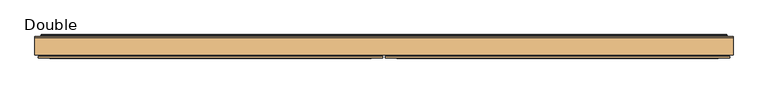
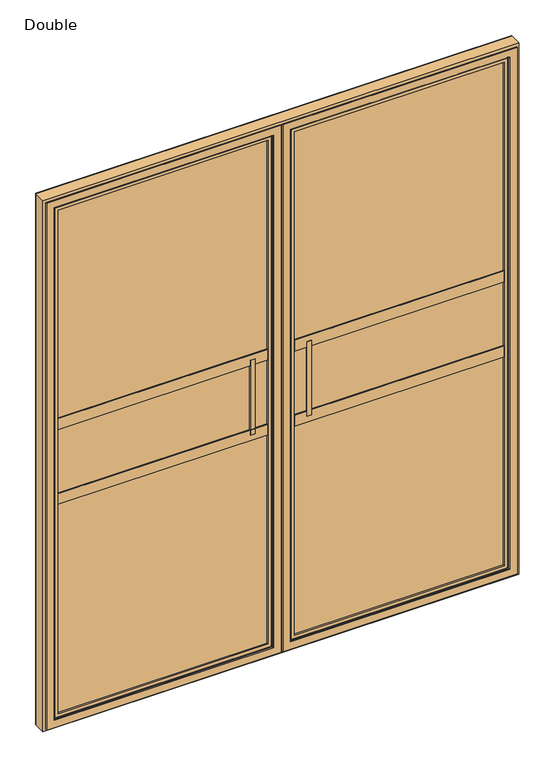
"""IFC4 building model written with IfcOpenShell, lengths in millimetres: door geometry, SMARTS_HeritageDoor : Double."""

import ifcopenshell
import ifcopenshell.guid

model = None  # the IFC model being written
_history = None  # IfcOwnerHistory: only IFC2X3 demands one
_inside = {}  # id of a spatial element -> (the spatial element, [elements in it])
_under = {}  # id of a project, library or spatial element -> (it, [spatial elements below it])
_declared = {}  # id of a project -> (the project, [libraries it declares])
_typed = {}  # id of a type object -> (the type object, [elements of that type])
_made_of = {}  # id of a material, layer set ... -> (it, [elements and type objects made of it])


def new_model(schema):
    """Start an empty IFC model of exactly this schema.

    Asked for "IFC4X3", IfcOpenShell would pick the latest addendum, in which some entities
    have other attributes; the version numbers below select the first issue.
    IFC2X3 requires an IfcOwnerHistory on every rooted entity: one is made here for all.
    """
    global model, _history
    if schema == "IFC4X3":
        model = ifcopenshell.file(schema_version=(4, 3, 0, 0))
    else:
        model = ifcopenshell.file(schema=schema)
    _inside.clear()
    _under.clear()
    _declared.clear()
    _typed.clear()
    _made_of.clear()
    _history = None
    if model.schema == "IFC2X3":
        org = make("IfcOrganization", Name="unknown")
        user = make(
            "IfcPersonAndOrganization",
            ThePerson=make("IfcPerson", FamilyName="unknown"),
            TheOrganization=org,
        )
        app = make(
            "IfcApplication",
            ApplicationDeveloper=org,
            Version="unknown",
            ApplicationFullName="unknown",
            ApplicationIdentifier="unknown",
        )
        _history = make(
            "IfcOwnerHistory",
            OwningUser=user,
            OwningApplication=app,
            ChangeAction="ADDED",
            CreationDate=0,
        )
    return model


def make(cls, **values):
    """One entity of the class cls with the attributes given. An attribute that is None is left unset."""
    return model.create_entity(
        cls, **{name: value for name, value in values.items() if value is not None}
    )


def rooted(cls, **values):
    """An entity with a GlobalId (a new one), such as an element, a storey or a relation."""
    return make(cls, GlobalId=ifcopenshell.guid.new(), OwnerHistory=_history, **values)


def si_unit(unit_type, name, prefix=None):
    """IfcSIUnit, for example si_unit("LENGTHUNIT", "METRE", prefix="MILLI")."""
    return make("IfcSIUnit", UnitType=unit_type, Prefix=prefix, Name=name)


def assignment(units):
    """IfcUnitAssignment: the units of a project."""
    return None if units is None else make("IfcUnitAssignment", Units=units)


def point(xyz):
    """IfcCartesianPoint."""
    return None if xyz is None else make("IfcCartesianPoint", Coordinates=xyz)


def direction(xyz):
    """IfcDirection."""
    return None if xyz is None else make("IfcDirection", DirectionRatios=xyz)


def frame(location, z_axis=None, x_axis=None):
    """IfcAxis2Placement3D, a coordinate frame: its origin and axes. An axis left out is left unset."""
    return make(
        "IfcAxis2Placement3D",
        Location=point(location),
        Axis=direction(z_axis),
        RefDirection=direction(x_axis),
    )


def origin():
    """The frame at (0, 0, 0) with its axes left unset."""
    return frame((0.0, 0.0, 0.0))


def place(relative_to, where):
    """IfcLocalPlacement: puts the frame where relative to a parent placement (None: the world)."""
    return make(
        "IfcLocalPlacement", PlacementRelTo=relative_to, RelativePlacement=where
    )


def context(
    kind, dimensions, precision=None, world=None, true_north=None, identifier=None
):
    """IfcGeometricRepresentationContext, for example the 3D "Model" context."""
    return make(
        "IfcGeometricRepresentationContext",
        ContextIdentifier=identifier,
        ContextType=kind,
        CoordinateSpaceDimension=dimensions,
        Precision=precision,
        WorldCoordinateSystem=world,
        TrueNorth=true_north,
    )


def project(units=None, contexts=None):
    """IfcProject with its units and contexts."""
    return rooted(
        "IfcProject",
        Name="project",
        RepresentationContexts=contexts,
        UnitsInContext=assignment(units),
    )


def spatial(cls, under=None, at=None, **own):
    """A site, building, storey or space (cls), placed at a placement, below another one or the project."""
    s = rooted(cls, ObjectPlacement=at, **own)
    if under is not None:
        _under.setdefault(under.id(), (under, []))[1].append(s)
    return s


def polyline(points):
    """IfcPolyline through the points."""
    return make("IfcPolyline", Points=[point(p) for p in points])


def ellipse_curve(where, semi_axis1, semi_axis2):
    """IfcEllipse in the frame where."""
    return make(
        "IfcEllipse", Position=where, SemiAxis1=semi_axis1, SemiAxis2=semi_axis2
    )


def outline(outer, holes=None, kind="AREA"):
    """IfcArbitraryClosedProfileDef: a profile drawn as a closed curve; with holes, ...WithVoids."""
    if holes is None:
        return make("IfcArbitraryClosedProfileDef", ProfileType=kind, OuterCurve=outer)
    return make(
        "IfcArbitraryProfileDefWithVoids",
        ProfileType=kind,
        OuterCurve=outer,
        InnerCurves=holes,
    )


def extrude(swept, where, along, depth):
    """IfcExtrudedAreaSolid: the profile swept, set in the frame where, extruded along a direction by depth."""
    return make(
        "IfcExtrudedAreaSolid",
        SweptArea=swept,
        Position=where,
        ExtrudedDirection=direction(along),
        Depth=depth,
    )


def shape(context_of_items, identifier, shape_type, items):
    """IfcShapeRepresentation: the items that make up one representation, for example the "Body"."""
    return make(
        "IfcShapeRepresentation",
        ContextOfItems=context_of_items,
        RepresentationIdentifier=identifier,
        RepresentationType=shape_type,
        Items=items,
    )


def source(mapping_origin, context_of_items, identifier, shape_type, items):
    """IfcRepresentationMap: a shape defined once, which mapped items show again and again."""
    return make(
        "IfcRepresentationMap",
        MappingOrigin=mapping_origin,
        MappedRepresentation=shape(context_of_items, identifier, shape_type, items),
    )


def transform(
    local_origin,
    x_axis=None,
    y_axis=None,
    z_axis=None,
    scale=None,
    scale2=None,
    scale3=None,
    uniform=True,
):
    """IfcCartesianTransformationOperator3D, or its non-uniform kind. x_axis, y_axis, z_axis: its Axis1, 2, 3."""
    if uniform:
        return make(
            "IfcCartesianTransformationOperator3D",
            Axis1=direction(x_axis),
            Axis2=direction(y_axis),
            LocalOrigin=point(local_origin),
            Scale=scale,
            Axis3=direction(z_axis),
        )
    return make(
        "IfcCartesianTransformationOperator3DnonUniform",
        Axis1=direction(x_axis),
        Axis2=direction(y_axis),
        LocalOrigin=point(local_origin),
        Scale=scale,
        Axis3=direction(z_axis),
        Scale2=scale2,
        Scale3=scale3,
    )


def mapped(mapping_source, mapping_target):
    """IfcMappedItem: shows the shape of a source again, moved by a transform."""
    return make(
        "IfcMappedItem", MappingSource=mapping_source, MappingTarget=mapping_target
    )


def made_of(thing, what):
    """Note that an element or type object is made of a material, layer set ...; save() writes the relation."""
    if what is not None:
        _made_of.setdefault(what.id(), (what, []))[1].append(thing)
    return thing


def element(
    cls,
    number,
    at=None,
    inside=None,
    cuts=None,
    type_object=None,
    material=None,
    context=None,
    identifier="Body",
    shape_type=None,
    held_by="IfcProductDefinitionShape",
    body=None,
    shapes=None,
    **own,
):
    """One element of the class cls, such as IfcWall. Its Tag is "e" and its number.

    at: its placement. inside: the storey or other place that contains it. cuts: it is an
    opening in that element (IfcRelVoidsElement). A single representation is given by context,
    identifier, shape_type and body (its items); several are given by shapes. held_by: the class
    of the entity that holds the representations. save() writes the other relations.
    """
    e = rooted(cls, Tag="e%d" % number, ObjectPlacement=at, **own)
    if body is not None:
        shapes = [shape(context, identifier, shape_type, body)]
    if shapes is not None:
        e.Representation = make(held_by, Representations=shapes)
    if inside is not None:
        _inside.setdefault(inside.id(), (inside, []))[1].append(e)
    if cuts is not None:
        rooted(
            "IfcRelVoidsElement", RelatingBuildingElement=cuts, RelatedOpeningElement=e
        )
    if type_object is not None:
        _typed.setdefault(type_object.id(), (type_object, []))[1].append(e)
    return made_of(e, material)


def aggregate(whole, parts):
    """IfcRelAggregates: a whole, such as a stair, and the parts it consists of."""
    return rooted("IfcRelAggregates", RelatingObject=whole, RelatedObjects=parts)


def save(model, path):
    """Write the relations noted so far, then the file.

    IfcRelAggregates (storeys below a building ...), IfcRelContainedInSpatialStructure (elements
    in a storey), IfcRelDefinesByType, IfcRelAssociatesMaterial and IfcRelDeclares: one each for
    every whole, place, type object, material and project.
    """
    for whole, parts in _under.values():
        aggregate(whole, parts)
    for where, things in _inside.values():
        rooted(
            "IfcRelContainedInSpatialStructure",
            RelatedElements=things,
            RelatingStructure=where,
        )
    for kind, things in _typed.values():
        rooted("IfcRelDefinesByType", RelatedObjects=things, RelatingType=kind)
    for what, things in _made_of.values():
        rooted("IfcRelAssociatesMaterial", RelatedObjects=things, RelatingMaterial=what)
    for by, libraries in _declared.values():
        rooted("IfcRelDeclares", RelatingContext=by, RelatedDefinitions=libraries)
    model.write(path)


def plane_surface(at):
    """IfcPlane: the flat surface through the origin of the frame at, square to its z axis."""
    return make("IfcPlane", Position=at)


def cylinder_surface(at, radius):
    """IfcCylindricalSurface: all points at the distance radius from the z axis of the frame at."""
    return make("IfcCylindricalSurface", Position=at, Radius=radius)


def revolved_surface(curve, axis_point, axis_direction):
    """IfcSurfaceOfRevolution: the curve turned about the line through axis_point along axis_direction."""
    return make(
        "IfcSurfaceOfRevolution",
        SweptCurve=make("IfcArbitraryOpenProfileDef", ProfileType="CURVE", Curve=curve),
        AxisPosition=make("IfcAxis1Placement", Location=point(axis_point), Axis=direction(axis_direction)),
    )


def advanced_brep(points, edges, surfaces, faces):
    """IfcAdvancedBrep: a solid bounded by faces that lie on surfaces and meet in shared edges.

    An edge is (start, end): straight between two places in points (the first is 0);
    or (start, end, curve); or (start, end, curve, False) where it runs against its curve.
    A face is (place in surfaces, loops), or (place, loops, False) where it looks against
    its surface's normal. A loop lists edges by number (the first is 1), with a minus sign
    where the edge is run from its end to its start. The first loop is the outer one.
    """
    corners = [point(p) for p in points]
    vertices = [make("IfcVertexPoint", VertexGeometry=c) for c in corners]
    made = []
    for start, end, *more in edges:
        made.append(
            make(
                "IfcEdgeCurve",
                EdgeStart=vertices[start],
                EdgeEnd=vertices[end],
                EdgeGeometry=more[0] if more else make("IfcPolyline", Points=[corners[start], corners[end]]),
                SameSense=more[1] if len(more) > 1 else True,
            )
        )
    hull = []
    for where, loops, *sense in faces:
        bounds = []
        for j, loop in enumerate(loops):
            ring = [make("IfcOrientedEdge", EdgeElement=made[abs(k) - 1], Orientation=k > 0) for k in loop]
            bounds.append(
                make(
                    "IfcFaceOuterBound" if j == 0 else "IfcFaceBound",
                    Bound=make("IfcEdgeLoop", EdgeList=ring),
                    Orientation=True,
                )
            )
        hull.append(make("IfcAdvancedFace", Bounds=bounds, FaceSurface=surfaces[where], SameSense=sense[0] if sense else True))
    return make("IfcAdvancedBrep", Outer=make("IfcClosedShell", CfsFaces=hull))


def double_5f8e8586(model_context):
    return source(origin(), model_context, "Body", "SolidModel", [
        extrude(outline(polyline([(-38.0, -66.0), (-846.5, -66.0), (-846.5, -62.0), (-38.0, -62.0), (-38.0, -66.0)])), frame((0.0, 0.0, 853.5), z_axis=(0.0, 0.0, 1.0), x_axis=(1.0, 0.0, 0.0)), (0.0, 0.0, 1.0), 2013.0),
        extrude(outline(polyline([(-38.0, -46.0), (-846.5, -46.0), (-846.5, -42.0), (-38.0, -42.0), (-38.0, -46.0)])), frame((0.0, 0.0, 853.5), z_axis=(0.0, 0.0, 1.0), x_axis=(1.0, 0.0, 0.0)), (0.0, 0.0, 1.0), 2013.0),
        extrude(outline(polyline([(2866.5, -846.5), (853.5, -846.5), (853.5, -38.0), (2866.5, -38.0), (2866.5, -846.5)]), holes=[polyline([(2856.5, -48.0), (863.5, -48.0), (863.5, -836.5), (2856.5, -836.5), (2856.5, -48.0)])]), frame((0.0, -62.0, 0.0), z_axis=(0.0, 1.0, 0.0), x_axis=(0.0, 0.0, 1.0)), (0.0, 0.0, 1.0), 16.0),
        extrude(outline(polyline([(-99.7380255, -38.3), (-114.7380255, -38.3), (-114.7380255, -27.0), (-99.7380255, -27.0), (-99.7380255, -38.3)])), frame((0.0, 0.0, 1712.0), z_axis=(0.0, 0.0, 1.0), x_axis=(1.0, 0.0, 0.0)), (0.0, 0.0, 1.0), 296.0),
        extrude(outline(polyline([(-34.5, -27.0), (-34.5, -57.9), (-99.7380255, -57.9), (-99.7380255, -27.0), (-34.5, -27.0)])), frame((0.0, 0.0, 1712.0), z_axis=(0.0, 0.0, 1.0), x_axis=(1.0, 0.0, 0.0)), (0.0, 0.0, 1.0), 296.0),
        extrude(outline(polyline([(-114.7380255, -69.6), (-99.7380255, -69.6), (-99.7380255, -57.9), (-34.3, -57.9), (-34.3, -67.9), (-98.0380255, -67.9), (-98.0380255, -73.8), (-114.7380255, -73.8), (-114.7380255, -69.6)])), frame((0.0, 0.0, 1712.0), z_axis=(0.0, 0.0, 1.0), x_axis=(1.0, 0.0, 0.0)), (0.0, 0.0, 1.0), 296.0),
        extrude(outline(polyline([(2870.0052956, -850.0052956), (849.9947044, -850.0052956), (849.9947044, -34.4947044), (2870.0052956, -34.4947044), (2870.0052956, -850.0052956)]), holes=[polyline([(2855.0, -49.5), (865.0, -49.5), (865.0, -835.0), (2855.0, -835.0), (2855.0, -49.5)])]), frame((0.0, -39.3, 0.0), z_axis=(0.0, 1.0, 0.0), x_axis=(0.0, 0.0, 1.0)), (0.0, 0.0, 1.0), 11.3),
        extrude(outline(polyline([(2885.6451958, -18.8548042), (2885.6451958, -865.6451958), (834.3548042, -865.6451958), (834.3548042, -18.8548042), (2885.6451958, -18.8548042)]), holes=[polyline([(850.0, -34.5), (850.0, -850.0), (2870.0, -850.0), (2870.0, -34.5), (850.0, -34.5)])]), frame((0.0, -69.6, 0.0), z_axis=(0.0, 1.0, 0.0), x_axis=(0.0, 0.0, 1.0)), (0.0, 0.0, 1.0), 41.6),
        advanced_brep(
        [(-49.5, -74.8, 2855.0), (-49.5, -69.6, 2855.0), (-49.5, -69.6, 865.0), (-49.5, -74.8, 865.0), (-835.0, -69.6, 865.0), (-835.0, -74.8, 865.0), (-835.0, -69.6, 2855.0), (-835.0, -74.8, 2855.0), (-3.3, -76.0, 2901.2), (-3.3, -80.0, 2901.2), (-3.3, -80.0, 818.8), (-3.3, -76.0, 818.8), (-881.2, -80.0, 818.8), (-881.2, -76.0, 818.8), (-881.2, -80.0, 2901.2), (-881.2, -76.0, 2901.2), (-18.3532343, -76.0, 2886.1467657), (-866.1467657, -76.0, 2886.1467657), (-866.1467657, -76.0, 833.8532343), (-18.3532343, -76.0, 833.8532343), (-32.3, -80.0, 847.8), (-852.2, -80.0, 847.8), (-852.2, -80.0, 2872.2), (-32.3, -80.0, 2872.2), (-18.3532343, -69.6, 2886.1467657), (-18.3532343, -69.6, 833.8532343), (-866.1467657, -69.6, 833.8532343), (-866.1467657, -69.6, 2886.1467657), (-34.3, -78.0, 2870.2), (-34.3, -76.8, 2870.2), (-34.3, -76.8, 849.8), (-34.3, -78.0, 849.8), (-36.3, -74.8, 2868.2), (-36.3, -74.8, 851.8), (-850.2, -76.8, 849.8), (-850.2, -78.0, 849.8), (-848.2, -74.8, 851.8), (-850.2, -76.8, 2870.2), (-850.2, -78.0, 2870.2), (-848.2, -74.8, 2868.2)],
        [
            (0, 1),
            (1, 2),
            (2, 3),
            (3, 0),
            (2, 4),
            (4, 5),
            (5, 3),
            (4, 6),
            (6, 7),
            (7, 5),
            (6, 1),
            (0, 7),
            (8, 9),
            (9, 10),
            (10, 11),
            (11, 8),
            (10, 12),
            (12, 13),
            (13, 11),
            (12, 14),
            (14, 15),
            (15, 13),
            (15, 8),
            (16, 17),
            (17, 18),
            (18, 19),
            (19, 16),
            (14, 9),
            (20, 21),
            (21, 22),
            (22, 23),
            (23, 20),
            (24, 16),
            (19, 25),
            (25, 24),
            (18, 26),
            (26, 25),
            (17, 27),
            (27, 26),
            (27, 24),
            (28, 29),
            (29, 30),
            (30, 31),
            (31, 28),
            (29, 32, ellipse_curve(frame((-36.3, -76.8, 2868.2), z_axis=(-0.7071067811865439, 0.0, 0.7071067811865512), x_axis=(-0.7071067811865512, 0.0, -0.7071067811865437)), 2.8284271, 2.0)),
            (32, 33),
            (33, 30, ellipse_curve(frame((-36.3, -76.8, 851.8), z_axis=(-0.7071067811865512, 0.0, -0.7071067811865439), x_axis=(0.707106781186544, 0.0, -0.707106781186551)), 2.8284271, 2.0)),
            (30, 34),
            (34, 35),
            (35, 31),
            (33, 36),
            (36, 34, ellipse_curve(frame((-848.2, -76.8, 851.8), z_axis=(-0.7071067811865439, 0.0, 0.7071067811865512), x_axis=(-0.707106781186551, 0.0, -0.707106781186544)), 2.8284271, 2.0)),
            (34, 37),
            (37, 38),
            (38, 35),
            (36, 39),
            (39, 37, ellipse_curve(frame((-848.2, -76.8, 2868.2), z_axis=(0.7071067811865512, 0.0, 0.7071067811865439), x_axis=(-0.707106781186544, 0.0, 0.707106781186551)), 2.8284271, 2.0)),
            (32, 39),
            (37, 29),
            (28, 38),
            (23, 28, ellipse_curve(frame((-32.3, -78.0, 2872.2), z_axis=(0.7071067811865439, 0.0, -0.7071067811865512), x_axis=(0.7071067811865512, 0.0, 0.7071067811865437)), 2.8284271, 2.0)),
            (31, 20, ellipse_curve(frame((-32.3, -78.0, 847.8), z_axis=(0.7071067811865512, 0.0, 0.7071067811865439), x_axis=(-0.707106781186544, 0.0, 0.707106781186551)), 2.8284271, 2.0)),
            (35, 21, ellipse_curve(frame((-852.2, -78.0, 847.8), z_axis=(0.7071067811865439, 0.0, -0.7071067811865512), x_axis=(0.707106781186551, 0.0, 0.707106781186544)), 2.8284271, 2.0)),
            (38, 22, ellipse_curve(frame((-852.2, -78.0, 2872.2), z_axis=(-0.7071067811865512, 0.0, -0.7071067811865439), x_axis=(0.707106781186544, 0.0, -0.707106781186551)), 2.8284271, 2.0)),
        ],
        [
            plane_surface(frame((-49.5, -69.6, 2855.0), z_axis=(-1.0, 0.0, 0.0), x_axis=(0.0, 0.0, -1.0))),
            plane_surface(frame((-49.5, -69.6, 865.0), z_axis=(0.0, 0.0, 1.0), x_axis=(-1.0, 0.0, 0.0))),
            plane_surface(frame((-835.0, -69.6, 865.0), z_axis=(1.0, 0.0, 0.0), x_axis=(0.0, 0.0, 1.0))),
            plane_surface(frame((-835.0, -69.6, 2855.0), z_axis=(0.0, 0.0, -1.0), x_axis=(1.0, 0.0, 0.0))),
            plane_surface(frame((-3.3, -80.0, 2901.2), z_axis=(1.0, 0.0, 0.0), x_axis=(0.0, 0.0, -1.0))),
            plane_surface(frame((-3.3, -80.0, 818.8), z_axis=(0.0, 0.0, -1.0), x_axis=(-1.0, 0.0, 0.0))),
            plane_surface(frame((-881.2, -80.0, 818.8), z_axis=(-1.0, 0.0, 0.0), x_axis=(0.0, 0.0, 1.0))),
            plane_surface(frame((-881.2, -76.0, 2901.2), z_axis=(0.0, 1.0, 0.0), x_axis=(1.0, 0.0, 0.0))),
            plane_surface(frame((-881.2, -80.0, 2901.2), z_axis=(0.0, 0.0, 1.0), x_axis=(1.0, 0.0, 0.0))),
            plane_surface(frame((-852.2, -80.0, 2872.2), z_axis=(0.0, -1.0, 0.0), x_axis=(1.0, 0.0, 0.0))),
            plane_surface(frame((-18.3532343, -76.0, 2886.1467657), z_axis=(1.0, 0.0, 0.0), x_axis=(0.0, 0.0, -1.0))),
            plane_surface(frame((-18.3532343, -76.0, 833.8532343), z_axis=(0.0, 0.0, -1.0), x_axis=(-1.0, 0.0, 0.0))),
            plane_surface(frame((-866.1467657, -76.0, 833.8532343), z_axis=(-1.0, 0.0, 0.0), x_axis=(0.0, 0.0, 1.0))),
            plane_surface(frame((-866.1467657, -69.6, 2886.1467657), z_axis=(0.0, 1.0, 0.0), x_axis=(1.0, 0.0, 0.0))),
            plane_surface(frame((-866.1467657, -76.0, 2886.1467657), z_axis=(0.0, 0.0, 1.0), x_axis=(1.0, 0.0, 0.0))),
            plane_surface(frame((-34.3, -76.8, 2870.2), z_axis=(-1.0, 0.0, 0.0), x_axis=(0.0, 0.0, -1.0))),
            revolved_surface(polyline([(-34.3, -76.8, 849.8), (-34.3, -76.8, 2870.2)]), (-36.3, -76.8, 2880.0), (0.0, 0.0, -1.0)),
            plane_surface(frame((-34.3, -76.8, 849.8), z_axis=(0.0, 0.0, 1.0), x_axis=(-1.0, 0.0, 0.0))),
            revolved_surface(polyline([(-850.2, -76.8, 849.8), (-34.3, -76.8, 849.8)]), (-24.5, -76.8, 851.8), (-1.0, 0.0, 0.0)),
            plane_surface(frame((-850.2, -76.8, 849.8), z_axis=(1.0, 0.0, 0.0), x_axis=(0.0, 0.0, 1.0))),
            revolved_surface(polyline([(-850.2, -76.8, 2870.2), (-850.2, -76.8, 849.8)]), (-848.2, -76.8, 840.0), (0.0, 0.0, 1.0)),
            plane_surface(frame((-835.0, -74.8, 2855.0), z_axis=(0.0, -1.0, 0.0), x_axis=(1.0, 0.0, 0.0))),
            plane_surface(frame((-850.2, -76.8, 2870.2), z_axis=(0.0, 0.0, -1.0), x_axis=(1.0, 0.0, 0.0))),
            revolved_surface(polyline([(-34.299999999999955, -76.8, 2870.2), (-850.2, -76.8, 2870.2)]), (-860.0, -76.8, 2868.2), (1.0, 0.0, 0.0)),
            cylinder_surface(frame((-32.3, -78.0, 2880.0), z_axis=(0.0, 0.0, 1.0), x_axis=(1.0, 0.0, 0.0)), 2.0),
            cylinder_surface(frame((-24.5, -78.0, 847.8), z_axis=(1.0, 0.0, 0.0), x_axis=(0.0, 0.0, -1.0)), 2.0),
            cylinder_surface(frame((-852.2, -78.0, 840.0), z_axis=(0.0, 0.0, -1.0), x_axis=(-1.0, 0.0, 0.0)), 2.0),
            cylinder_surface(frame((-860.0, -78.0, 2872.2), z_axis=(-1.0, 0.0, 0.0), x_axis=(0.0, 0.0, 1.0)), 2.0),
        ],
        [
            (0, [[1, 2, 3, 4]]),
            (1, [[-3, 5, 6, 7]]),
            (2, [[-6, 8, 9, 10]]),
            (3, [[-9, 11, -1, 12]]),
            (4, [[13, 14, 15, 16]]),
            (5, [[-15, 17, 18, 19]]),
            (6, [[-18, 20, 21, 22]]),
            (7, [[-19, -22, 23, -16], [24, 25, 26, 27]]),
            (8, [[-21, 28, -13, -23]]),
            (9, [[-28, -20, -17, -14], [29, 30, 31, 32]]),
            (10, [[33, -27, 34, 35]]),
            (11, [[-34, -26, 36, 37]]),
            (12, [[-36, -25, 38, 39]]),
            (13, [[-37, -39, 40, -35], [-11, -8, -5, -2]]),
            (14, [[-38, -24, -33, -40]]),
            (15, [[41, 42, 43, 44]]),
            (16, [[45, 46, 47, -42]]),
            (17, [[-43, 48, 49, 50]]),
            (18, [[-47, 51, 52, -48]]),
            (19, [[-49, 53, 54, 55]]),
            (20, [[-52, 56, 57, -53]]),
            (21, [[58, -56, -51, -46], [-7, -10, -12, -4]]),
            (22, [[-54, 59, -41, 60]]),
            (23, [[-57, -58, -45, -59]]),
            (24, [[61, -44, 62, -32]]),
            (25, [[-62, -50, 63, -29]]),
            (26, [[-63, -55, 64, -30]]),
            (27, [[-64, -60, -61, -31]]),
        ],
    ),
        extrude(outline(polyline([(-835.0, -38.4690746), (-835.0, -27.1690746), (-49.5, -27.1690746), (-49.5, -38.4690746), (-835.0, -38.4690746)])), frame((0.0, 0.0, 1986.75), z_axis=(0.0, 0.0, 1.0), x_axis=(1.0, 0.0, 0.0)), (0.0, 0.0, 1.0), 16.15),
        extrude(outline(polyline([(-835.0, -38.4690746), (-835.0, -27.1690746), (-49.5, -27.1690746), (-49.5, -38.4690746), (-835.0, -38.4690746)])), frame((0.0, 0.0, 2014.25), z_axis=(0.0, 0.0, 1.0), x_axis=(1.0, 0.0, 0.0)), (0.0, 0.0, 1.0), 15.0052956),
        extrude(outline(polyline([(-835.0, -53.5843537), (-835.0, -27.1690746), (-49.5, -27.1690746), (-49.5, -53.5843537), (-835.0, -53.5843537)])), frame((0.0, 0.0, 2001.75), z_axis=(0.0, 0.0, 1.0), x_axis=(1.0, 0.0, 0.0)), (0.0, 0.0, 1.0), 12.5),
        extrude(outline(polyline([(-69.9690746, 2029.2552956), (-69.9690746, 2014.25), (-53.5843537, 2014.25), (-53.5843537, 2001.75), (-69.9690746, 2001.75), (-69.9690746, 1986.75), (-73.9687074, 1986.75), (-73.9687074, 2029.2552956), (-69.9690746, 2029.2552956)])), frame((-835.0, 0.0, 0.0), z_axis=(1.0, 0.0, 0.0), x_axis=(0.0, 1.0, 0.0)), (0.0, 0.0, 1.0), 785.5),
        extrude(outline(polyline([(-835.0, -38.4690746), (-835.0, -27.1690746), (-49.5, -27.1690746), (-49.5, -38.4690746), (-835.0, -38.4690746)])), frame((0.0, 0.0, 1690.75), z_axis=(0.0, 0.0, 1.0), x_axis=(1.0, 0.0, 0.0)), (0.0, 0.0, 1.0), 16.15),
        extrude(outline(polyline([(-835.0, -38.4690746), (-835.0, -27.1690746), (-49.5, -27.1690746), (-49.5, -38.4690746), (-835.0, -38.4690746)])), frame((0.0, 0.0, 1718.25), z_axis=(0.0, 0.0, 1.0), x_axis=(1.0, 0.0, 0.0)), (0.0, 0.0, 1.0), 15.0052956),
        extrude(outline(polyline([(-835.0, -53.5843537), (-835.0, -27.1690746), (-49.5, -27.1690746), (-49.5, -53.5843537), (-835.0, -53.5843537)])), frame((0.0, 0.0, 1705.75), z_axis=(0.0, 0.0, 1.0), x_axis=(1.0, 0.0, 0.0)), (0.0, 0.0, 1.0), 12.5),
        extrude(outline(polyline([(-69.9690746, 1733.2552956), (-69.9690746, 1718.25), (-53.5843537, 1718.25), (-53.5843537, 1705.75), (-69.9690746, 1705.75), (-69.9690746, 1690.75), (-73.9687074, 1690.75), (-73.9687074, 1733.2552956), (-69.9690746, 1733.2552956)])), frame((-835.0, 0.0, 0.0), z_axis=(1.0, 0.0, 0.0), x_axis=(0.0, 1.0, 0.0)), (0.0, 0.0, 1.0), 785.5),
        extrude(outline(polyline([(38.0, -66.0), (38.0, -62.0), (846.5, -62.0), (846.5, -66.0), (38.0, -66.0)])), frame((0.0, 0.0, 853.5), z_axis=(0.0, 0.0, 1.0), x_axis=(1.0, 0.0, 0.0)), (0.0, 0.0, 1.0), 2013.0),
        extrude(outline(polyline([(38.0, -46.0), (38.0, -42.0), (846.5, -42.0), (846.5, -46.0), (38.0, -46.0)])), frame((0.0, 0.0, 853.5), z_axis=(0.0, 0.0, 1.0), x_axis=(1.0, 0.0, 0.0)), (0.0, 0.0, 1.0), 2013.0),
        extrude(outline(polyline([(2866.5, 846.5), (2866.5, 38.0), (853.5, 38.0), (853.5, 846.5), (2866.5, 846.5)]), holes=[polyline([(2856.5, 48.0), (2856.5, 836.5), (863.5, 836.5), (863.5, 48.0), (2856.5, 48.0)])]), frame((0.0, -62.0, 0.0), z_axis=(0.0, 1.0, 0.0), x_axis=(0.0, 0.0, 1.0)), (0.0, 0.0, 1.0), 16.0),
        extrude(outline(polyline([(99.7380255, -38.3), (99.7380255, -27.0), (114.7380255, -27.0), (114.7380255, -38.3), (99.7380255, -38.3)])), frame((0.0, 0.0, 1712.0), z_axis=(0.0, 0.0, 1.0), x_axis=(1.0, 0.0, 0.0)), (0.0, 0.0, 1.0), 296.0),
        extrude(outline(polyline([(34.5, -27.0), (99.7380255, -27.0), (99.7380255, -57.9), (34.5, -57.9), (34.5, -27.0)])), frame((0.0, 0.0, 1712.0), z_axis=(0.0, 0.0, 1.0), x_axis=(1.0, 0.0, 0.0)), (0.0, 0.0, 1.0), 296.0),
        extrude(outline(polyline([(114.7380255, -69.6), (114.7380255, -73.8), (98.0380255, -73.8), (98.0380255, -67.9), (34.3, -67.9), (34.3, -57.9), (99.7380255, -57.9), (99.7380255, -69.6), (114.7380255, -69.6)])), frame((0.0, 0.0, 1712.0), z_axis=(0.0, 0.0, 1.0), x_axis=(1.0, 0.0, 0.0)), (0.0, 0.0, 1.0), 296.0),
        extrude(outline(polyline([(2870.0052956, 850.0052956), (2870.0052956, 34.4947044), (849.9947044, 34.4947044), (849.9947044, 850.0052956), (2870.0052956, 850.0052956)]), holes=[polyline([(2855.0, 49.5), (2855.0, 835.0), (865.0, 835.0), (865.0, 49.5), (2855.0, 49.5)])]), frame((0.0, -39.3, 0.0), z_axis=(0.0, 1.0, 0.0), x_axis=(0.0, 0.0, 1.0)), (0.0, 0.0, 1.0), 11.3),
        extrude(outline(polyline([(2885.6451958, 18.8548042), (834.3548042, 18.8548042), (834.3548042, 865.6451958), (2885.6451958, 865.6451958), (2885.6451958, 18.8548042)]), holes=[polyline([(850.0, 34.5), (2870.0, 34.5), (2870.0, 850.0), (850.0, 850.0), (850.0, 34.5)])]), frame((0.0, -69.6, 0.0), z_axis=(0.0, 1.0, 0.0), x_axis=(0.0, 0.0, 1.0)), (0.0, 0.0, 1.0), 41.6),
        advanced_brep(
        [(49.5, -74.8, 2855.0), (49.5, -74.8, 865.0), (49.5, -69.6, 865.0), (49.5, -69.6, 2855.0), (835.0, -74.8, 865.0), (835.0, -69.6, 865.0), (835.0, -74.8, 2855.0), (835.0, -69.6, 2855.0), (3.3, -76.0, 2901.2), (3.3, -76.0, 818.8), (3.3, -80.0, 818.8), (3.3, -80.0, 2901.2), (881.2, -76.0, 818.8), (881.2, -80.0, 818.8), (881.2, -76.0, 2901.2), (881.2, -80.0, 2901.2), (18.3532343, -76.0, 2886.1467657), (18.3532343, -76.0, 833.8532343), (866.1467657, -76.0, 833.8532343), (866.1467657, -76.0, 2886.1467657), (32.3, -80.0, 847.8), (32.3, -80.0, 2872.2), (852.2, -80.0, 2872.2), (852.2, -80.0, 847.8), (18.3532343, -69.6, 2886.1467657), (18.3532343, -69.6, 833.8532343), (866.1467657, -69.6, 833.8532343), (866.1467657, -69.6, 2886.1467657), (34.3, -78.0, 2870.2), (34.3, -78.0, 849.8), (34.3, -76.8, 849.8), (34.3, -76.8, 2870.2), (36.3, -74.8, 851.8), (36.3, -74.8, 2868.2), (850.2, -78.0, 849.8), (850.2, -76.8, 849.8), (848.2, -74.8, 851.8), (850.2, -78.0, 2870.2), (850.2, -76.8, 2870.2), (848.2, -74.8, 2868.2)],
        [
            (0, 1),
            (1, 2),
            (2, 3),
            (3, 0),
            (1, 4),
            (4, 5),
            (5, 2),
            (4, 6),
            (6, 7),
            (7, 5),
            (6, 0),
            (3, 7),
            (8, 9),
            (9, 10),
            (10, 11),
            (11, 8),
            (9, 12),
            (12, 13),
            (13, 10),
            (12, 14),
            (14, 15),
            (15, 13),
            (8, 14),
            (16, 17),
            (17, 18),
            (18, 19),
            (19, 16),
            (11, 15),
            (20, 21),
            (21, 22),
            (22, 23),
            (23, 20),
            (24, 25),
            (25, 17),
            (16, 24),
            (25, 26),
            (26, 18),
            (26, 27),
            (27, 19),
            (24, 27),
            (28, 29),
            (29, 30),
            (30, 31),
            (31, 28),
            (30, 32, ellipse_curve(frame((36.3, -76.8, 851.8), z_axis=(0.7071067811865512, 0.0, -0.7071067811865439), x_axis=(-0.707106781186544, 0.0, -0.707106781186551)), 2.8284271, 2.0)),
            (32, 33),
            (33, 31, ellipse_curve(frame((36.3, -76.8, 2868.2), z_axis=(0.7071067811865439, 0.0, 0.7071067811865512), x_axis=(0.7071067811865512, 0.0, -0.7071067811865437)), 2.8284271, 2.0)),
            (29, 34),
            (34, 35),
            (35, 30),
            (35, 36, ellipse_curve(frame((848.2, -76.8, 851.8), z_axis=(0.7071067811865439, 0.0, 0.7071067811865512), x_axis=(0.707106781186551, 0.0, -0.707106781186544)), 2.8284271, 2.0)),
            (36, 32),
            (34, 37),
            (37, 38),
            (38, 35),
            (38, 39, ellipse_curve(frame((848.2, -76.8, 2868.2), z_axis=(-0.7071067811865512, 0.0, 0.7071067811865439), x_axis=(0.707106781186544, 0.0, 0.707106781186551)), 2.8284271, 2.0)),
            (39, 36),
            (39, 33),
            (37, 28),
            (31, 38),
            (20, 29, ellipse_curve(frame((32.3, -78.0, 847.8), z_axis=(-0.7071067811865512, 0.0, 0.7071067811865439), x_axis=(0.707106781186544, 0.0, 0.707106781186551)), 2.8284271, 2.0)),
            (28, 21, ellipse_curve(frame((32.3, -78.0, 2872.2), z_axis=(-0.7071067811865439, 0.0, -0.7071067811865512), x_axis=(-0.7071067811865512, 0.0, 0.7071067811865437)), 2.8284271, 2.0)),
            (23, 34, ellipse_curve(frame((852.2, -78.0, 847.8), z_axis=(-0.7071067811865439, 0.0, -0.7071067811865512), x_axis=(-0.707106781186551, 0.0, 0.707106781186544)), 2.8284271, 2.0)),
            (22, 37, ellipse_curve(frame((852.2, -78.0, 2872.2), z_axis=(0.7071067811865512, 0.0, -0.7071067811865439), x_axis=(-0.707106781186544, 0.0, -0.707106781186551)), 2.8284271, 2.0)),
        ],
        [
            plane_surface(frame((49.5, -69.6, 2855.0), z_axis=(1.0, 0.0, 0.0), x_axis=(0.0, 0.0, -1.0))),
            plane_surface(frame((49.5, -69.6, 865.0), z_axis=(0.0, 0.0, 1.0), x_axis=(1.0, 0.0, 0.0))),
            plane_surface(frame((835.0, -69.6, 865.0), z_axis=(-1.0, 0.0, 0.0), x_axis=(0.0, 0.0, 1.0))),
            plane_surface(frame((835.0, -69.6, 2855.0), z_axis=(0.0, 0.0, -1.0), x_axis=(-1.0, 0.0, 0.0))),
            plane_surface(frame((3.3, -80.0, 2901.2), z_axis=(-1.0, 0.0, 0.0), x_axis=(0.0, 0.0, -1.0))),
            plane_surface(frame((3.3, -80.0, 818.8), z_axis=(0.0, 0.0, -1.0), x_axis=(1.0, 0.0, 0.0))),
            plane_surface(frame((881.2, -80.0, 818.8), z_axis=(1.0, 0.0, 0.0), x_axis=(0.0, 0.0, 1.0))),
            plane_surface(frame((881.2, -76.0, 2901.2), z_axis=(0.0, 1.0, 0.0), x_axis=(-1.0, 0.0, 0.0))),
            plane_surface(frame((881.2, -80.0, 2901.2), z_axis=(0.0, 0.0, 1.0), x_axis=(-1.0, 0.0, 0.0))),
            plane_surface(frame((852.2, -80.0, 2872.2), z_axis=(0.0, -1.0, 0.0), x_axis=(-1.0, 0.0, 0.0))),
            plane_surface(frame((18.3532343, -76.0, 2886.1467657), z_axis=(-1.0, 0.0, 0.0), x_axis=(0.0, 0.0, -1.0))),
            plane_surface(frame((18.3532343, -76.0, 833.8532343), z_axis=(0.0, 0.0, -1.0), x_axis=(1.0, 0.0, 0.0))),
            plane_surface(frame((866.1467657, -76.0, 833.8532343), z_axis=(1.0, 0.0, 0.0), x_axis=(0.0, 0.0, 1.0))),
            plane_surface(frame((866.1467657, -69.6, 2886.1467657), z_axis=(0.0, 1.0, 0.0), x_axis=(-1.0, 0.0, 0.0))),
            plane_surface(frame((866.1467657, -76.0, 2886.1467657), z_axis=(0.0, 0.0, 1.0), x_axis=(-1.0, 0.0, 0.0))),
            plane_surface(frame((34.3, -76.8, 2870.2), z_axis=(1.0, 0.0, 0.0), x_axis=(0.0, 0.0, -1.0))),
            revolved_surface(polyline([(34.3, -76.8, 849.8), (34.3, -76.8, 2870.2)]), (36.3, -76.8, 2880.0), (0.0, 0.0, -1.0)),
            plane_surface(frame((34.3, -76.8, 849.8), z_axis=(0.0, 0.0, 1.0), x_axis=(1.0, 0.0, 0.0))),
            revolved_surface(polyline([(850.2, -76.8, 849.8), (34.3, -76.8, 849.8)]), (24.5, -76.8, 851.8), (1.0, 0.0, 0.0)),
            plane_surface(frame((850.2, -76.8, 849.8), z_axis=(-1.0, 0.0, 0.0), x_axis=(0.0, 0.0, 1.0))),
            revolved_surface(polyline([(850.2, -76.8, 2870.2), (850.2, -76.8, 849.8)]), (848.2, -76.8, 840.0), (0.0, 0.0, 1.0)),
            plane_surface(frame((835.0, -74.8, 2855.0), z_axis=(0.0, -1.0, 0.0), x_axis=(-1.0, 0.0, 0.0))),
            plane_surface(frame((850.2, -76.8, 2870.2), z_axis=(0.0, 0.0, -1.0), x_axis=(-1.0, 0.0, 0.0))),
            revolved_surface(polyline([(34.299999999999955, -76.8, 2870.2), (850.2, -76.8, 2870.2)]), (860.0, -76.8, 2868.2), (-1.0, 0.0, 0.0)),
            cylinder_surface(frame((32.3, -78.0, 2880.0), z_axis=(0.0, 0.0, 1.0), x_axis=(-1.0, 0.0, 0.0)), 2.0),
            cylinder_surface(frame((24.5, -78.0, 847.8), z_axis=(-1.0, 0.0, 0.0), x_axis=(0.0, 0.0, -1.0)), 2.0),
            cylinder_surface(frame((852.2, -78.0, 840.0), z_axis=(0.0, 0.0, -1.0), x_axis=(1.0, 0.0, 0.0)), 2.0),
            cylinder_surface(frame((860.0, -78.0, 2872.2), z_axis=(1.0, 0.0, 0.0), x_axis=(0.0, 0.0, 1.0)), 2.0),
        ],
        [
            (0, [[1, 2, 3, 4]]),
            (1, [[5, 6, 7, -2]]),
            (2, [[8, 9, 10, -6]]),
            (3, [[11, -4, 12, -9]]),
            (4, [[13, 14, 15, 16]]),
            (5, [[17, 18, 19, -14]]),
            (6, [[20, 21, 22, -18]]),
            (7, [[-13, 23, -20, -17], [24, 25, 26, 27]]),
            (8, [[-23, -16, 28, -21]]),
            (9, [[-15, -19, -22, -28], [29, 30, 31, 32]]),
            (10, [[33, 34, -24, 35]]),
            (11, [[36, 37, -25, -34]]),
            (12, [[38, 39, -26, -37]]),
            (13, [[-33, 40, -38, -36], [-3, -7, -10, -12]]),
            (14, [[-40, -35, -27, -39]]),
            (15, [[41, 42, 43, 44]]),
            (16, [[-43, 45, 46, 47]]),
            (17, [[48, 49, 50, -42]]),
            (18, [[-50, 51, 52, -45]]),
            (19, [[53, 54, 55, -49]]),
            (20, [[-55, 56, 57, -51]]),
            (21, [[-46, -52, -57, 58], [-1, -11, -8, -5]]),
            (22, [[59, -44, 60, -54]]),
            (23, [[-60, -47, -58, -56]]),
            (24, [[-29, 61, -41, 62]]),
            (25, [[-32, 63, -48, -61]]),
            (26, [[-31, 64, -53, -63]]),
            (27, [[-30, -62, -59, -64]]),
        ],
    ),
        extrude(outline(polyline([(835.0, -38.4690746), (49.5, -38.4690746), (49.5, -27.1690746), (835.0, -27.1690746), (835.0, -38.4690746)])), frame((0.0, 0.0, 1986.75), z_axis=(0.0, 0.0, 1.0), x_axis=(1.0, 0.0, 0.0)), (0.0, 0.0, 1.0), 16.15),
        extrude(outline(polyline([(835.0, -38.4690746), (49.5, -38.4690746), (49.5, -27.1690746), (835.0, -27.1690746), (835.0, -38.4690746)])), frame((0.0, 0.0, 2014.25), z_axis=(0.0, 0.0, 1.0), x_axis=(1.0, 0.0, 0.0)), (0.0, 0.0, 1.0), 15.0052956),
        extrude(outline(polyline([(835.0, -53.5843537), (49.5, -53.5843537), (49.5, -27.1690746), (835.0, -27.1690746), (835.0, -53.5843537)])), frame((0.0, 0.0, 2001.75), z_axis=(0.0, 0.0, 1.0), x_axis=(1.0, 0.0, 0.0)), (0.0, 0.0, 1.0), 12.5),
        extrude(outline(polyline([(-69.9690746, 2029.2552956), (-69.9690746, 2014.25), (-53.5843537, 2014.25), (-53.5843537, 2001.75), (-69.9690746, 2001.75), (-69.9690746, 1986.75), (-73.9687074, 1986.75), (-73.9687074, 2029.2552956), (-69.9690746, 2029.2552956)])), frame((49.5, 0.0, 0.0), z_axis=(1.0, 0.0, 0.0), x_axis=(0.0, 1.0, 0.0)), (0.0, 0.0, 1.0), 785.5),
        extrude(outline(polyline([(835.0, -38.4690746), (49.5, -38.4690746), (49.5, -27.1690746), (835.0, -27.1690746), (835.0, -38.4690746)])), frame((0.0, 0.0, 1690.75), z_axis=(0.0, 0.0, 1.0), x_axis=(1.0, 0.0, 0.0)), (0.0, 0.0, 1.0), 16.15),
        extrude(outline(polyline([(835.0, -38.4690746), (49.5, -38.4690746), (49.5, -27.1690746), (835.0, -27.1690746), (835.0, -38.4690746)])), frame((0.0, 0.0, 1718.25), z_axis=(0.0, 0.0, 1.0), x_axis=(1.0, 0.0, 0.0)), (0.0, 0.0, 1.0), 15.0052956),
        extrude(outline(polyline([(835.0, -53.5843537), (49.5, -53.5843537), (49.5, -27.1690746), (835.0, -27.1690746), (835.0, -53.5843537)])), frame((0.0, 0.0, 1705.75), z_axis=(0.0, 0.0, 1.0), x_axis=(1.0, 0.0, 0.0)), (0.0, 0.0, 1.0), 12.5),
        extrude(outline(polyline([(-69.9690746, 1733.2552956), (-69.9690746, 1718.25), (-53.5843537, 1718.25), (-53.5843537, 1705.75), (-69.9690746, 1705.75), (-69.9690746, 1690.75), (-73.9687074, 1690.75), (-73.9687074, 1733.2552956), (-69.9690746, 1733.2552956)])), frame((49.5, 0.0, 0.0), z_axis=(1.0, 0.0, 0.0), x_axis=(0.0, 1.0, 0.0)), (0.0, 0.0, 1.0), 785.5),
        advanced_brep(
        [(857.0, -20.0, 2877.0), (857.0, -20.0, 843.0), (857.0, -24.0, 843.0), (857.0, -24.0, 2877.0), (872.2999818, -24.0, 2892.2999818), (872.2999818, -24.0, 827.7000182), (872.2999818, -27.0000138, 827.7000182), (872.2999818, -27.0000138, 2892.2999818), (874.4999818, -23.5000138, 2894.4999818), (874.4999818, -23.5000138, 825.5000182), (874.4999818, -22.0, 825.5000182), (874.4999818, -22.0, 2894.4999818), (-857.0, -20.0, 843.0), (-857.0, -24.0, 843.0), (-872.2999818, -24.0, 827.7000182), (-872.2999818, -27.0000138, 827.7000182), (-874.4999818, -23.5000138, 825.5000182), (-874.4999818, -22.0, 825.5000182), (-857.0, -20.0, 2877.0), (-857.0, -24.0, 2877.0), (-872.2999818, -24.0, 2892.2999818), (-872.2999818, -27.0000138, 2892.2999818), (-874.4999818, -23.5000138, 2894.4999818), (-874.4999818, -22.0, 2894.4999818), (875.9999818, -25.0000138, 2895.9999818), (875.9999818, -25.0000138, 824.0000182), (890.0, -27.0000138, 2910.0), (890.0, -27.0000138, 810.0), (890.0, -25.0000138, 810.0), (890.0, -25.0000138, 2910.0), (-875.9999818, -25.0000138, 824.0000182), (-890.0, -27.0000138, 810.0), (-890.0, -25.0000138, 810.0), (-875.9999818, -25.0000138, 2895.9999818), (-890.0, -27.0000138, 2910.0), (-890.0, -25.0000138, 2910.0), (872.4999818, -20.0, 2892.4999818), (872.4999818, -20.0, 827.5000182), (-872.4999818, -20.0, 827.5000182), (-872.4999818, -20.0, 2892.4999818)],
        [
            (0, 1),
            (1, 2),
            (2, 3),
            (3, 0),
            (4, 5),
            (5, 6),
            (6, 7),
            (7, 4),
            (8, 9),
            (9, 10),
            (10, 11),
            (11, 8),
            (1, 12),
            (12, 13),
            (13, 2),
            (5, 14),
            (14, 15),
            (15, 6),
            (9, 16),
            (16, 17),
            (17, 10),
            (12, 18),
            (18, 19),
            (19, 13),
            (14, 20),
            (20, 21),
            (21, 15),
            (16, 22),
            (22, 23),
            (23, 17),
            (18, 0),
            (3, 19),
            (4, 20),
            (7, 21),
            (22, 8),
            (11, 23),
            (24, 25),
            (25, 9, ellipse_curve(frame((875.9999818, -23.5000138, 824.0000182), z_axis=(-0.7071067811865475, 0.0, -0.7071067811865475), x_axis=(0.7071067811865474, 0.0, -0.7071067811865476)), 2.1213203, 1.5)),
            (8, 24, ellipse_curve(frame((875.9999818, -23.5000138, 2895.9999818), z_axis=(-0.7071067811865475, 0.0, 0.7071067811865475), x_axis=(-0.7071067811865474, 0.0, -0.7071067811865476)), 2.1213203, 1.5)),
            (26, 27),
            (27, 28),
            (28, 29),
            (29, 26),
            (25, 30),
            (30, 16, ellipse_curve(frame((-875.9999818, -23.5000138, 824.0000182), z_axis=(-0.7071067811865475, 0.0, 0.7071067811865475), x_axis=(-0.7071067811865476, 0.0, -0.7071067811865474)), 2.1213203, 1.5)),
            (27, 31),
            (31, 32),
            (32, 28),
            (30, 33),
            (33, 22, ellipse_curve(frame((-875.9999818, -23.5000138, 2895.9999818), z_axis=(0.7071067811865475, 0.0, 0.7071067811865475), x_axis=(-0.7071067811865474, 0.0, 0.7071067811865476)), 2.1213203, 1.5)),
            (31, 34),
            (34, 35),
            (35, 32),
            (33, 24),
            (35, 29),
            (36, 37),
            (37, 38),
            (38, 39),
            (39, 36),
            (34, 26),
            (10, 37, ellipse_curve(frame((872.4999818, -22.0, 827.5000182), z_axis=(0.7071067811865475, 0.0, 0.7071067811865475), x_axis=(-0.7071067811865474, 0.0, 0.7071067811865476)), 2.8284271, 2.0)),
            (36, 11, ellipse_curve(frame((872.4999818, -22.0, 2892.4999818), z_axis=(0.7071067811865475, 0.0, -0.7071067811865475), x_axis=(0.7071067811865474, 0.0, 0.7071067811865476)), 2.8284271, 2.0)),
            (17, 38, ellipse_curve(frame((-872.4999818, -22.0, 827.5000182), z_axis=(0.7071067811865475, 0.0, -0.7071067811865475), x_axis=(0.7071067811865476, 0.0, 0.7071067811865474)), 2.8284271, 2.0)),
            (23, 39, ellipse_curve(frame((-872.4999818, -22.0, 2892.4999818), z_axis=(-0.7071067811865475, 0.0, -0.7071067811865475), x_axis=(0.7071067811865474, 0.0, -0.7071067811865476)), 2.8284271, 2.0)),
        ],
        [
            plane_surface(frame((857.0, -24.0, 2877.0), z_axis=(-1.0, 0.0, 0.0), x_axis=(0.0, 0.0, -1.0))),
            plane_surface(frame((872.2999818, -27.0000138, 2892.2999818), z_axis=(-1.0, 0.0, 0.0), x_axis=(0.0, 0.0, -1.0))),
            plane_surface(frame((874.4999818, -22.0, 2894.4999818), z_axis=(1.0, 0.0, 0.0), x_axis=(0.0, 0.0, -1.0))),
            plane_surface(frame((857.0, -24.0, 843.0), z_axis=(0.0, 0.0, 1.0), x_axis=(-1.0, 0.0, 0.0))),
            plane_surface(frame((872.2999818, -27.0000138, 827.7000182), z_axis=(0.0, 0.0, 1.0), x_axis=(-1.0, 0.0, 0.0))),
            plane_surface(frame((874.4999818, -22.0, 825.5000182), z_axis=(0.0, 0.0, -1.0), x_axis=(-1.0, 0.0, 0.0))),
            plane_surface(frame((-857.0, -24.0, 843.0), z_axis=(1.0, 0.0, 0.0), x_axis=(0.0, 0.0, 1.0))),
            plane_surface(frame((-872.2999818, -27.0000138, 827.7000182), z_axis=(1.0, 0.0, 0.0), x_axis=(0.0, 0.0, 1.0))),
            plane_surface(frame((-874.4999818, -22.0, 825.5000182), z_axis=(-1.0, 0.0, 0.0), x_axis=(0.0, 0.0, 1.0))),
            plane_surface(frame((-857.0, -24.0, 2877.0), z_axis=(0.0, 0.0, -1.0), x_axis=(1.0, 0.0, 0.0))),
            plane_surface(frame((-872.2999818, -24.0, 2892.2999818), z_axis=(0.0, -1.0, 0.0), x_axis=(1.0, 0.0, 0.0))),
            plane_surface(frame((-872.2999818, -27.0000138, 2892.2999818), z_axis=(0.0, 0.0, -1.0), x_axis=(1.0, 0.0, 0.0))),
            plane_surface(frame((-874.4999818, -22.0, 2894.4999818), z_axis=(0.0, 0.0, 1.0), x_axis=(1.0, 0.0, 0.0))),
            revolved_surface(polyline([(874.4999818, -23.5000138, 822.5000182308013), (874.4999818, -23.5000138, 2897.4999817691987)]), (875.9999818, -23.5000138, 2910.0), (0.0, 0.0, -1.0)),
            plane_surface(frame((890.0, -25.0000138, 2910.0), z_axis=(1.0, 0.0, 0.0), x_axis=(0.0, 0.0, -1.0))),
            revolved_surface(polyline([(-877.4999817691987, -23.5000138, 825.5000182), (877.4999817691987, -23.5000138, 825.5000182)]), (890.0, -23.5000138, 824.0000182), (-1.0, 0.0, 0.0)),
            plane_surface(frame((890.0, -25.0000138, 810.0), z_axis=(0.0, 0.0, -1.0), x_axis=(-1.0, 0.0, 0.0))),
            revolved_surface(polyline([(-874.4999818, -23.5000138, 2897.4999817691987), (-874.4999818, -23.5000138, 822.5000182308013)]), (-875.9999818, -23.5000138, 810.0), (0.0, 0.0, 1.0)),
            plane_surface(frame((-890.0, -25.0000138, 810.0), z_axis=(-1.0, 0.0, 0.0), x_axis=(0.0, 0.0, 1.0))),
            revolved_surface(polyline([(877.4999817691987, -23.5000138, 2894.4999818), (-877.4999817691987, -23.5000138, 2894.4999818)]), (-890.0, -23.5000138, 2895.9999818), (1.0, 0.0, 0.0)),
            plane_surface(frame((-875.9999818, -25.0000138, 2895.9999818), z_axis=(0.0, 1.0, 0.0), x_axis=(1.0, 0.0, 0.0))),
            plane_surface(frame((-857.0, -20.0, 2877.0), z_axis=(0.0, 1.0, 0.0), x_axis=(1.0, 0.0, 0.0))),
            plane_surface(frame((-890.0, -25.0000138, 2910.0), z_axis=(0.0, 0.0, 1.0), x_axis=(1.0, 0.0, 0.0))),
            plane_surface(frame((-890.0, -27.0000138, 2910.0), z_axis=(0.0, -1.0, 0.0), x_axis=(1.0, 0.0, 0.0))),
            cylinder_surface(frame((872.4999818, -22.0, 2910.0), z_axis=(0.0, 0.0, 1.0), x_axis=(-1.0, 0.0, 0.0)), 2.0),
            cylinder_surface(frame((890.0, -22.0, 827.5000182), z_axis=(1.0, 0.0, 0.0), x_axis=(0.0, 0.0, 1.0)), 2.0),
            cylinder_surface(frame((-872.4999818, -22.0, 810.0), z_axis=(0.0, 0.0, -1.0), x_axis=(1.0, 0.0, 0.0)), 2.0),
            cylinder_surface(frame((-890.0, -22.0, 2892.4999818), z_axis=(-1.0, 0.0, 0.0), x_axis=(0.0, 0.0, -1.0)), 2.0),
        ],
        [
            (0, [[1, 2, 3, 4]]),
            (1, [[5, 6, 7, 8]]),
            (2, [[9, 10, 11, 12]]),
            (3, [[13, 14, 15, -2]]),
            (4, [[16, 17, 18, -6]]),
            (5, [[19, 20, 21, -10]]),
            (6, [[22, 23, 24, -14]]),
            (7, [[25, 26, 27, -17]]),
            (8, [[28, 29, 30, -20]]),
            (9, [[31, -4, 32, -23]]),
            (10, [[-5, 33, -25, -16], [-3, -15, -24, -32]]),
            (11, [[-33, -8, 34, -26]]),
            (12, [[35, -12, 36, -29]]),
            (13, [[37, 38, -9, 39]]),
            (14, [[40, 41, 42, 43]]),
            (15, [[44, 45, -19, -38]]),
            (16, [[46, 47, 48, -41]]),
            (17, [[49, 50, -28, -45]]),
            (18, [[51, 52, 53, -47]]),
            (19, [[54, -39, -35, -50]]),
            (20, [[-42, -48, -53, 55], [-37, -54, -49, -44]]),
            (21, [[56, 57, 58, 59], [-1, -31, -22, -13]]),
            (22, [[60, -43, -55, -52]]),
            (23, [[-40, -60, -51, -46], [-7, -18, -27, -34]]),
            (24, [[-11, 61, -56, 62]]),
            (25, [[-21, 63, -57, -61]]),
            (26, [[-30, 64, -58, -63]]),
            (27, [[-36, -62, -59, -64]]),
        ],
    ),
        extrude(outline(polyline([(810.0, 890.0), (2910.0, 890.0), (2910.0, -890.0), (810.0, -890.0), (810.0, 890.0)]), holes=[polyline([(2892.2999818, 872.2999818), (827.7000182, 872.2999818), (827.7000182, -872.2999818), (2892.2999818, -872.2999818), (2892.2999818, 872.2999818)])]), frame((0.0, -72.0000099, 0.0), z_axis=(0.0, 1.0, 0.0), x_axis=(0.0, 0.0, 1.0)), (0.0, 0.0, 1.0), 44.9999962),
    ])


if __name__ == "__main__":
    model = new_model("IFC4")
    model_context = context("Model", 3, world=origin())
    ifc_project = project(units=[si_unit("LENGTHUNIT", "METRE", prefix="MILLI")], contexts=[model_context])
    site = spatial("IfcSite", under=ifc_project)
    building = spatial("IfcBuilding", under=site)
    placement = place(None, origin())
    double_shape = double_5f8e8586(model_context)
    element("IfcDoor", 1, ObjectType="SMARTS_HeritageDoor : Double", at=placement, inside=building, context=model_context, shape_type="MappedRepresentation", body=[
        mapped(double_shape, transform((0.0, 0.0, 0.0), x_axis=(1.0, 0.0, 0.0), y_axis=(0.0, 1.0, 0.0), z_axis=(0.0, 0.0, 1.0))),
    ])
    save(model, "model.ifc")
